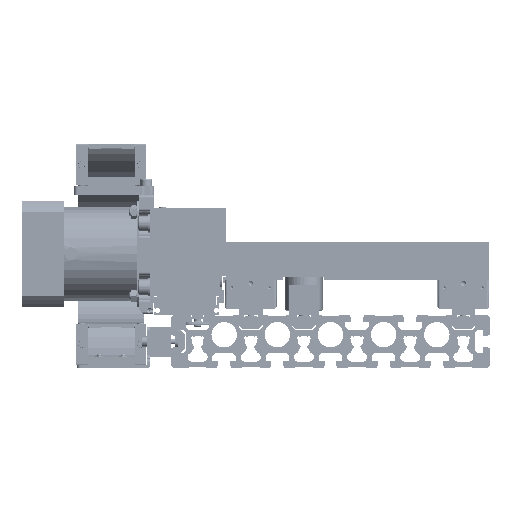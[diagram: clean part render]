
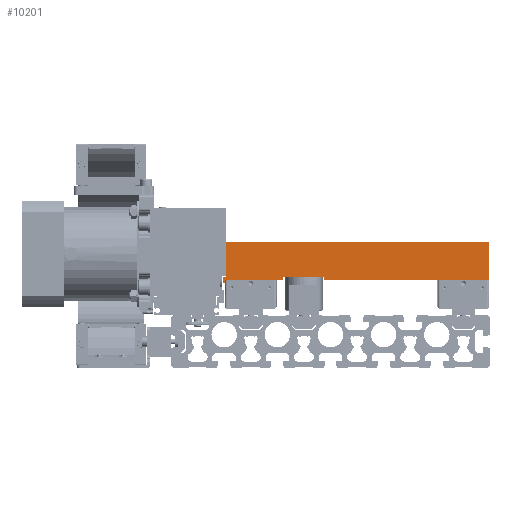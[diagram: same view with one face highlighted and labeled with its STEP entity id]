
A CAD part, front view. The second image highlights one B-rep face of the part: STEP entity #10201.
In plain terms, the highlighted planar face has unit normal (0, -1, 0) as drawn and (1, 0, 0) by its records, which use the part's own axes.
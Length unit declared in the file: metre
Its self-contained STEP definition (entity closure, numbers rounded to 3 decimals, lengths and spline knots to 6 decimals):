
#10201 = ADVANCED_FACE( '', ( #19537 ), #19538, .F. );
#19537 = FACE_OUTER_BOUND( '', #29199, .T. );
#19538 = PLANE( '', #29200 );
#29199 = EDGE_LOOP( '', ( #49086, #49087, #49088, #49089, #49090, #49091, #49092, #49093, #49094, #49095, #49096, #49097 ) );
#29200 = AXIS2_PLACEMENT_3D( '', #49098, #49099, #49100 );
#49086 = ORIENTED_EDGE( '', *, *, #61354, .T. );
#49087 = ORIENTED_EDGE( '', *, *, #62351, .F. );
#49088 = ORIENTED_EDGE( '', *, *, #62149, .F. );
#49089 = ORIENTED_EDGE( '', *, *, #54415, .T. );
#49090 = ORIENTED_EDGE( '', *, *, #59185, .T. );
#49091 = ORIENTED_EDGE( '', *, *, #62352, .F. );
#49092 = ORIENTED_EDGE( '', *, *, #61330, .F. );
#49093 = ORIENTED_EDGE( '', *, *, #62353, .T. );
#49094 = ORIENTED_EDGE( '', *, *, #56221, .T. );
#49095 = ORIENTED_EDGE( '', *, *, #60653, .T. );
#49096 = ORIENTED_EDGE( '', *, *, #58568, .T. );
#49097 = ORIENTED_EDGE( '', *, *, #57409, .T. );
#49098 = CARTESIAN_POINT( '', ( 0.125, -0.017145, 0.02286 ) );
#49099 = DIRECTION( '', ( -1., 0., 0. ) );
#49100 = DIRECTION( '', ( 0., -1., 0. ) );
#54415 = EDGE_CURVE( '', #63767, #63765, #63768, .T. );
#56221 = EDGE_CURVE( '', #66929, #66927, #66930, .T. );
#57409 = EDGE_CURVE( '', #68999, #68997, #69000, .T. );
#58568 = EDGE_CURVE( '', #70821, #68999, #70822, .T. );
#59185 = EDGE_CURVE( '', #63765, #71735, #71737, .T. );
#60653 = EDGE_CURVE( '', #66927, #70821, #73840, .T. );
#61330 = EDGE_CURVE( '', #74731, #74733, #74734, .T. );
#61354 = EDGE_CURVE( '', #68997, #74772, #74774, .T. );
#62149 = EDGE_CURVE( '', #63767, #75720, #75722, .T. );
#62351 = EDGE_CURVE( '', #75720, #74772, #75949, .T. );
#62352 = EDGE_CURVE( '', #74733, #71735, #75950, .T. );
#62353 = EDGE_CURVE( '', #74731, #66929, #75951, .T. );
#63765 = VERTEX_POINT( '', #77255 );
#63767 = VERTEX_POINT( '', #77258 );
#63768 = LINE( '', #77259, #77260 );
#66927 = VERTEX_POINT( '', #81708 );
#66929 = VERTEX_POINT( '', #81711 );
#66930 = LINE( '', #81712, #81713 );
#68997 = VERTEX_POINT( '', #84775 );
#68999 = VERTEX_POINT( '', #84778 );
#69000 = LINE( '', #84779, #84780 );
#70821 = VERTEX_POINT( '', #87580 );
#70822 = LINE( '', #87581, #87582 );
#71735 = VERTEX_POINT( '', #88904 );
#71737 = LINE( '', #88907, #88908 );
#73840 = LINE( '', #92041, #92042 );
#74731 = VERTEX_POINT( '', #93425 );
#74733 = VERTEX_POINT( '', #93428 );
#74734 = LINE( '', #93429, #93430 );
#74772 = VERTEX_POINT( '', #93475 );
#74774 = LINE( '', #93478, #93479 );
#75720 = VERTEX_POINT( '', #94993 );
#75722 = LINE( '', #94996, #94997 );
#75949 = LINE( '', #95307, #95308 );
#75950 = LINE( '', #95309, #95310 );
#75951 = LINE( '', #95311, #95312 );
#77255 = CARTESIAN_POINT( '', ( 0.125, 0.014605, 0.063246 ) );
#77258 = CARTESIAN_POINT( '', ( 0.125, 0.012065, 0.063246 ) );
#77259 = CARTESIAN_POINT( '', ( 0.125, 0.012065, 0.063246 ) );
#77260 = VECTOR( '', #96684, 1. );
#81708 = CARTESIAN_POINT( '', ( 0.125, 0.012065, -0.02286 ) );
#81711 = CARTESIAN_POINT( '', ( 0.125, 0.012065, -0.019812 ) );
#81712 = CARTESIAN_POINT( '', ( 0.125, 0.012065, -0.02286 ) );
#81713 = VECTOR( '', #99011, 1. );
#84775 = CARTESIAN_POINT( '', ( 0.125, 0.014605, -0.021133 ) );
#84778 = CARTESIAN_POINT( '', ( 0.125, 0.017145, -0.021133 ) );
#84779 = CARTESIAN_POINT( '', ( 0.125, 0.017145, -0.021133 ) );
#84780 = VECTOR( '', #100912, 1. );
#87580 = CARTESIAN_POINT( '', ( 0.125, 0.017145, -0.02286 ) );
#87581 = CARTESIAN_POINT( '', ( 0.125, 0.017145, 0.02286 ) );
#87582 = VECTOR( '', #102304, 1. );
#88904 = CARTESIAN_POINT( '', ( 0.125, 0.014605, 0.20286 ) );
#88907 = CARTESIAN_POINT( '', ( 0.125, 0.014605, 0.02286 ) );
#88908 = VECTOR( '', #103013, 1. );
#92041 = CARTESIAN_POINT( '', ( 0.125, -0.017145, -0.02286 ) );
#92042 = VECTOR( '', #104984, 1. );
#93425 = CARTESIAN_POINT( '', ( 0.125, -0.017145, -0.019812 ) );
#93428 = CARTESIAN_POINT( '', ( 0.125, -0.017145, 0.20286 ) );
#93429 = CARTESIAN_POINT( '', ( 0.125, -0.017145, 0.02286 ) );
#93430 = VECTOR( '', #105687, 1. );
#93475 = CARTESIAN_POINT( '', ( 0.125, 0.014605, 0.028194 ) );
#93478 = CARTESIAN_POINT( '', ( 0.125, 0.014605, 0.02286 ) );
#93479 = VECTOR( '', #105735, 1. );
#94993 = CARTESIAN_POINT( '', ( 0.125, 0.012065, 0.028194 ) );
#94996 = CARTESIAN_POINT( '', ( 0.125, 0.012065, 0.02286 ) );
#94997 = VECTOR( '', #106425, 1. );
#95307 = CARTESIAN_POINT( '', ( 0.125, 0.012065, 0.028194 ) );
#95308 = VECTOR( '', #106568, 1. );
#95309 = CARTESIAN_POINT( '', ( 0.125, -0.017145, 0.20286 ) );
#95310 = VECTOR( '', #106569, 1. );
#95311 = CARTESIAN_POINT( '', ( 0.125, -0.017145, -0.019812 ) );
#95312 = VECTOR( '', #106570, 1. );
#96684 = DIRECTION( '', ( 0., 1., 0. ) );
#99011 = DIRECTION( '', ( 0., 0., -1. ) );
#100912 = DIRECTION( '', ( 0., -1., 0. ) );
#102304 = DIRECTION( '', ( 0., 0., 1. ) );
#103013 = DIRECTION( '', ( 0., 0., 1. ) );
#104984 = DIRECTION( '', ( 0., 1., 0. ) );
#105687 = DIRECTION( '', ( 0., 0., 1. ) );
#105735 = DIRECTION( '', ( 0., 0., 1. ) );
#106425 = DIRECTION( '', ( 0., 0., -1. ) );
#106568 = DIRECTION( '', ( 0., 1., 0. ) );
#106569 = DIRECTION( '', ( 0., 1., 0. ) );
#106570 = DIRECTION( '', ( 0., 1., 0. ) );
